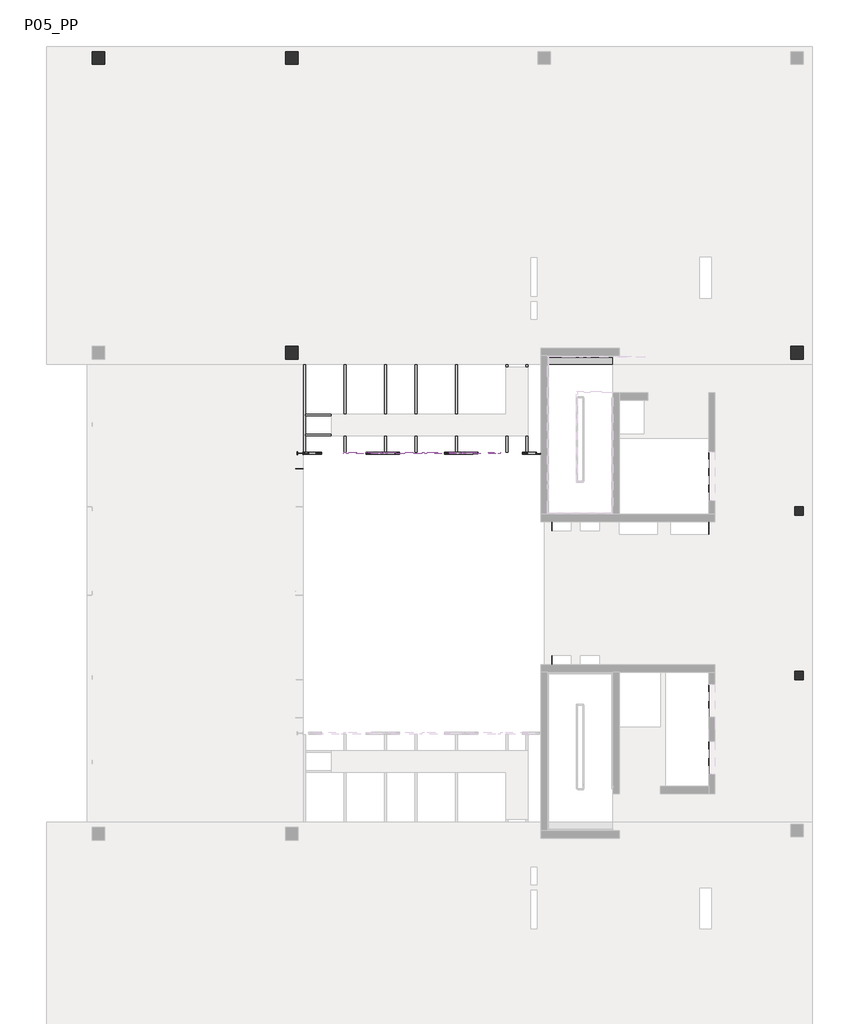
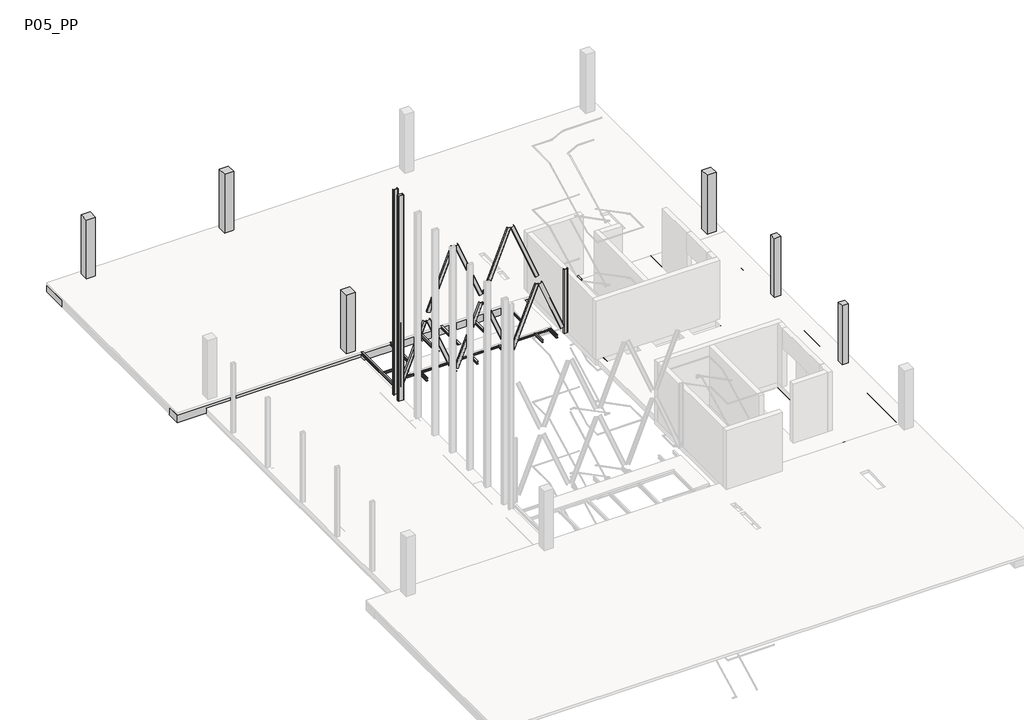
# One storey, part 3 of 7: 45 beams, 10 columns.
"""IFC4 building model written with IfcOpenShell, lengths in millimetres."""

from ifc_helpers import new_model, si_unit, frame, origin, place, context, project, spatial, polyline, outline, extrude, faceted_brep, transform, mapped, element, save
from components import ub_universal_beams_ipe_160x82_a4b44378, ub_universal_beams_ipe_160x82_3ea767f5, upn120x55_8ca40f5d, upn120x55_f8c29ef0, upn120x55_6f2391d9, upn120x55_f3862d68, upn120x55_dbb17e30, upn200x75_22e62ea1, upn200x75_5ddb06b6, upn200x75_15f8b11e, upn200x75_df23aae5, upn200x75_922ad74a, upn200x75_7b6a578c, rhs_rectangular_hollow_section_column_300x150x5_0rhs_ee9d9ef0, ub_universal_beam_column_ipe_240x120_65ac1af2, upn_200x75_111d3a53

model = new_model("IFC4")

# Units and contexts
model_context = context("Model", 3, world=origin())
ifc_project = project(units=[si_unit("LENGTHUNIT", "METRE", prefix="MILLI")], contexts=[model_context])

# Site, building, storey
site = spatial("IfcSite", under=ifc_project)
building = spatial("IfcBuilding", under=site)
storey = spatial("IfcBuildingStorey", under=building, Name="P05_PP", Elevation=26160.0)

# Beams
placement = place(None, origin())
element("IfcBeam", 1, ObjectType="M_Concrete-Rectangular Beam : 1500 x 550mm", at=placement, inside=storey, context=model_context, shape_type="Brep", body=[
    faceted_brep([(-13390.3216429, 13539.4134441, 26160.0), (-10790.2146087, 13539.4134441, 26160.0), (-10790.2146087, 13864.8960677, 26160.0), (-13390.3216429, 13864.8960677, 26160.0), (-2913.6343046, 15039.4134441, 25610.0), (-4553.6343046, 15039.4134441, 25610.0), (-5816.2708415, 15039.4134441, 25610.0), (-6216.2708415, 15039.4134441, 25610.0), (-7482.9375051, 15039.4134441, 25610.0), (-7882.9375051, 15039.4134441, 25610.0), (-9149.6041702, 15039.4134441, 25610.0), (-9549.6041702, 15039.4134441, 25610.0), (-10816.2708336, 15039.4134441, 25610.0), (-11216.2708336, 15039.4134441, 25610.0), (-12482.9374977, 15039.4134441, 25610.0), (-12882.9374977, 15039.4134441, 25610.0), (-14149.604161, 15039.4134441, 25610.0), (-14549.604161, 15039.4134441, 25610.0), (-15816.2708252, 15039.4134441, 25610.0), (-16216.2708252, 15039.4134441, 25610.0), (-17482.9374898, 15039.4134441, 25610.0), (-17882.9374898, 15039.4134441, 25610.0), (-19149.6041539, 15039.4134441, 25610.0), (-19549.6041539, 15039.4134441, 25610.0), (-20816.2708168, 15039.4134441, 25610.0), (-21216.2708168, 15039.4134441, 25610.0), (-22482.9374805, 15039.4134441, 25610.0), (-22882.9374805, 15039.4134441, 25610.0), (-24149.6041453, 15039.4134441, 25610.0), (-24149.6041453, 15039.4134441, 26010.0), (-22882.9374805, 15039.4134441, 26010.0), (-22482.9374805, 15039.4134441, 26010.0), (-21216.2708168, 15039.4134441, 26010.0), (-20816.2708168, 15039.4134441, 26010.0), (-19549.6041539, 15039.4134441, 26010.0), (-19149.6041539, 15039.4134441, 26010.0), (-17882.9374898, 15039.4134441, 26010.0), (-17482.9374898, 15039.4134441, 26010.0), (-16216.2708252, 15039.4134441, 26010.0), (-15816.2708252, 15039.4134441, 26010.0), (-14549.604161, 15039.4134441, 26010.0), (-14149.604161, 15039.4134441, 26010.0), (-12882.9374977, 15039.4134441, 26010.0), (-12482.9374977, 15039.4134441, 26010.0), (-11216.2708336, 15039.4134441, 26010.0), (-10816.2708336, 15039.4134441, 26010.0), (-9549.6041702, 15039.4134441, 26010.0), (-9149.6041702, 15039.4134441, 26010.0), (-7882.9375051, 15039.4134441, 26010.0), (-7482.9375051, 15039.4134441, 26010.0), (-6216.2708415, 15039.4134441, 26010.0), (-5816.2708415, 15039.4134441, 26010.0), (-4553.6343046, 15039.4134441, 26010.0), (-2913.6343046, 15039.4134441, 26010.0), (-2913.6343046, 13539.4134441, 25610.0), (-13390.3216429, 13539.4134441, 25610.0), (-13390.3216429, 13864.8960687, 25610.0), (-10540.3248355, 13864.8960687, 25610.0), (-10540.3248355, 14164.8960687, 25610.0), (-13640.3216429, 14164.8960687, 25610.0), (-13640.3216429, 13539.4134441, 25610.0), (-23041.1819308, 13539.4134441, 25610.0), (-23041.1819308, 14339.4137942, 25610.0), (-24149.6041453, 14339.4137942, 25610.0), (-3266.6679272, 13739.3936244, 25610.0), (-3266.6679265, 14239.3936244, 25610.0), (-3766.6679265, 14239.3936251, 25610.0), (-3766.6679272, 13739.3936251, 25610.0), (-13640.3216429, 13539.4134441, 25859.9777344), (-13390.3216429, 13539.4134441, 25859.9777344), (-2913.6343046, 13539.4134441, 25860.0), (-2913.6343046, 13539.4134441, 26010.0), (-10790.2146087, 13539.4134441, 26010.0), (-13390.3216429, 13539.4134441, 26010.0), (-23041.1830703, 13539.4134441, 26010.0), (-3266.6679272, 13739.3936244, 25860.0), (-3266.6679265, 14239.3936244, 25860.0), (-3766.6679272, 13739.3936251, 25860.0), (-3766.6679265, 14239.3936251, 25860.0), (-10540.3248355, 14164.8960687, 25859.9777344), (-13640.3216429, 14164.8960687, 25859.9777344), (-10540.3248355, 13864.8960687, 25859.9777344), (-13390.3216429, 13864.8960687, 25859.9777344), (-13640.3216429, 13864.8960687, 25859.9777344), (-23041.1819308, 14339.4137942, 26010.0), (-24149.6041453, 14339.4137942, 26010.0), (-10790.2146087, 13864.8960677, 26010.0), (-13390.3216429, 13864.8960677, 26010.0)], [[[0, 1, 2, 3]], [[4, 5, 6, 7, 8, 9, 10, 11, 12, 13, 14, 15, 16, 17, 18, 19, 20, 21, 22, 23, 24, 25, 26, 27, 28, 29, 30, 31, 32, 33, 34, 35, 36, 37, 38, 39, 40, 41, 42, 43, 44, 45, 46, 47, 48, 49, 50, 51, 52, 53]], [[4, 54, 55, 56, 57, 58, 59, 60, 61, 62, 63, 28, 27, 26, 25, 24, 23, 22, 21, 20, 19, 18, 17, 16, 15, 14, 13, 12, 11, 10, 9, 8, 7, 6, 5], [64, 65, 66, 67]], [[60, 68, 69, 55, 54, 70, 71, 72, 1, 0, 73, 74, 61]], [[54, 4, 53, 71, 70]], [[75, 76, 65, 64]], [[77, 75, 64, 67]], [[78, 77, 67, 66]], [[76, 78, 66, 65]], [[76, 75, 77, 78]], [[79, 80, 59, 58]], [[81, 57, 56, 82]], [[80, 79, 81, 82, 69, 68, 83]], [[81, 79, 58, 57]], [[59, 80, 83, 68, 60]], [[69, 82, 56, 55]], [[62, 61, 74, 84]], [[28, 63, 85, 29]], [[63, 62, 84, 85]], [[86, 72, 71, 53, 52, 51, 50, 49, 48, 47, 46, 45, 44, 43, 42, 41, 40, 39, 38, 37, 36, 35, 34, 33, 32, 31, 30, 29, 85, 84, 74, 73, 87]], [[86, 87, 3, 2]], [[87, 73, 0, 3]], [[72, 86, 2, 1]]]),
])
element("IfcBeam", 2, ObjectType="M_Concrete-Rectangular Beam : 1500 x 550mm", at=placement, inside=storey, context=model_context, shape_type="Brep", body=[
    faceted_brep([(-4553.6343046, 26089.4144807, 25610.0), (-33190.2931093, 26089.4144807, 25610.0), (-33190.2931093, 26089.4144807, 26010.0), (-4553.6343046, 26089.4144807, 26010.0), (-33190.2931093, 24589.4144807, 25610.0), (-4553.6343046, 24589.4144807, 25610.0), (-5816.2708415, 24589.4144807, 25610.0), (-6216.2708415, 24589.4144807, 25610.0), (-7482.9375051, 24589.4144807, 25610.0), (-7882.9375051, 24589.4144807, 25610.0), (-9149.6041702, 24589.4144807, 25610.0), (-9549.6041702, 24589.4144807, 25610.0), (-10816.2708336, 24589.4144807, 25610.0), (-11216.2708336, 24589.4144807, 25610.0), (-12482.9374977, 24589.4144807, 25610.0), (-12882.9374977, 24589.4144807, 25610.0), (-14149.604161, 24589.4144807, 25610.0), (-14549.604161, 24589.4144807, 25610.0), (-15816.2708252, 24589.4144807, 25610.0), (-16216.2708252, 24589.4144807, 25610.0), (-17482.9374898, 24589.4144807, 25610.0), (-17882.9374898, 24589.4144807, 25610.0), (-19149.6041539, 24589.4144807, 25610.0), (-19549.6041539, 24589.4144807, 25610.0), (-20816.2708168, 24589.4144807, 25610.0), (-21216.2708168, 24589.4144807, 25610.0), (-22482.9374805, 24589.4144807, 25610.0), (-22882.9374805, 24589.4144807, 25610.0), (-24149.6041453, 24589.4144807, 25610.0), (-24549.6041453, 24589.4144807, 25610.0), (-25816.2708089, 24589.4144807, 25610.0), (-26216.2708089, 24589.4144807, 25610.0), (-27482.9374731, 24589.4144807, 25610.0), (-27882.9374731, 24589.4144807, 25610.0), (-29149.6041367, 24589.4144807, 25610.0), (-29549.6041367, 24589.4144807, 25610.0), (-30816.2708024, 24589.4144807, 25610.0), (-31216.2708024, 24589.4144807, 25610.0), (-32490.2931093, 24589.4144807, 25610.0), (-13266.2186647, 25389.5104252, 25610.0), (-13266.218663, 25889.5104252, 25610.0), (-13766.218663, 25889.5104269, 25610.0), (-13766.2186647, 25389.5104269, 25610.0), (-23241.21739, 25389.5479146, 25610.0), (-23241.2173889, 25889.5479146, 25610.0), (-23741.2173889, 25889.5479157, 25610.0), (-23741.21739, 25389.5479157, 25610.0), (-30891.2595076, 25389.5793313, 25610.0), (-30891.2595074, 25889.5793313, 25610.0), (-31391.2595074, 25889.5793316, 25610.0), (-31391.2595076, 25389.5793316, 25610.0), (-4553.6343046, 24589.4144807, 26010.0), (-5816.2708415, 24589.4144807, 26010.0), (-6216.2708415, 24589.4144807, 26010.0), (-7482.9375051, 24589.4144807, 26010.0), (-7882.9375051, 24589.4144807, 26010.0), (-9149.6041702, 24589.4144807, 26010.0), (-9549.6041702, 24589.4144807, 26010.0), (-10816.2708336, 24589.4144807, 26010.0), (-11216.2708336, 24589.4144807, 26010.0), (-12482.9374977, 24589.4144807, 26010.0), (-12882.9374977, 24589.4144807, 26010.0), (-14149.604161, 24589.4144807, 26010.0), (-14549.604161, 24589.4144807, 26010.0), (-15816.2708252, 24589.4144807, 26010.0), (-16216.2708252, 24589.4144807, 26010.0), (-17482.9374898, 24589.4144807, 26010.0), (-17882.9374898, 24589.4144807, 26010.0), (-19149.6041539, 24589.4144807, 26010.0), (-19549.6041539, 24589.4144807, 26010.0), (-20816.2708168, 24589.4144807, 26010.0), (-21216.2708168, 24589.4144807, 26010.0), (-22482.9374805, 24589.4144807, 26010.0), (-22882.9374805, 24589.4144807, 26010.0), (-24149.6041453, 24589.4144807, 26010.0), (-24549.6041453, 24589.4144807, 26010.0), (-25816.2708089, 24589.4144807, 26010.0), (-26216.2708089, 24589.4144807, 26010.0), (-27482.9374731, 24589.4144807, 26010.0), (-27882.9374731, 24589.4144807, 26010.0), (-29149.6041367, 24589.4144807, 26010.0), (-29549.6041367, 24589.4144807, 26010.0), (-30816.2708024, 24589.4144807, 26010.0), (-31216.2708024, 24589.4144807, 26010.0), (-32490.2931093, 24589.4144807, 26010.0), (-33190.2931093, 24589.4144807, 26010.0), (-13266.2186647, 25389.5104252, 25860.0), (-13266.218663, 25889.5104252, 25860.0), (-13766.2186647, 25389.5104269, 25860.0), (-13766.218663, 25889.5104269, 25860.0), (-23241.21739, 25389.5479146, 25860.0), (-23241.2173889, 25889.5479146, 25860.0), (-23741.21739, 25389.5479157, 25860.0), (-23741.2173889, 25889.5479157, 25860.0), (-30891.2595076, 25389.5793313, 25860.0), (-30891.2595074, 25889.5793313, 25860.0), (-31391.2595076, 25389.5793316, 25860.0), (-31391.2595074, 25889.5793316, 25860.0)], [[[0, 1, 2, 3]], [[4, 1, 0, 5, 6, 7, 8, 9, 10, 11, 12, 13, 14, 15, 16, 17, 18, 19, 20, 21, 22, 23, 24, 25, 26, 27, 28, 29, 30, 31, 32, 33, 34, 35, 36, 37, 38], [39, 40, 41, 42], [43, 44, 45, 46], [47, 48, 49, 50]], [[4, 38, 37, 36, 35, 34, 33, 32, 31, 30, 29, 28, 27, 26, 25, 24, 23, 22, 21, 20, 19, 18, 17, 16, 15, 14, 13, 12, 11, 10, 9, 8, 7, 6, 5, 51, 52, 53, 54, 55, 56, 57, 58, 59, 60, 61, 62, 63, 64, 65, 66, 67, 68, 69, 70, 71, 72, 73, 74, 75, 76, 77, 78, 79, 80, 81, 82, 83, 84, 85]], [[1, 4, 85, 2]], [[5, 0, 3, 51]], [[86, 87, 40, 39]], [[88, 86, 39, 42]], [[89, 88, 42, 41]], [[87, 89, 41, 40]], [[87, 86, 88, 89]], [[90, 91, 44, 43]], [[92, 90, 43, 46]], [[93, 92, 46, 45]], [[91, 93, 45, 44]], [[91, 90, 92, 93]], [[94, 95, 48, 47]], [[96, 94, 47, 50]], [[97, 96, 50, 49]], [[95, 97, 49, 48]], [[95, 94, 96, 97]], [[3, 2, 85, 84, 83, 82, 81, 80, 79, 78, 77, 76, 75, 74, 73, 72, 71, 70, 69, 68, 67, 66, 65, 64, 63, 62, 61, 60, 59, 58, 57, 56, 55, 54, 53, 52, 51]]]),
])
element("IfcBeam", 3, ObjectType="M_Concrete-Rectangular Beam : 300 x 300mm", at=placement, inside=storey, context=model_context, shape_type="SweptSolid", body=[
    extrude(outline(polyline([(-13515.3216429, 7614.8960673), (-13215.3216429, 7614.8960673), (-13215.3216429, 1364.8960692), (-13515.3216429, 1364.8960692), (-13515.3216429, 7614.8960673)])), frame((0.0, 0.0, 25860.0), z_axis=(0.0, 0.0, 1.0), x_axis=(1.0, 0.0, 0.0)), (0.0, 0.0, 1.0), 300.0),
])
element("IfcBeam", 4, ObjectType="M_Concrete-Rectangular Beam : 300 x 300mm", at=placement, inside=storey, context=model_context, shape_type="Brep", body=[
    faceted_brep([(-6715.3241677, 13539.4134441, 26160.0), (-7015.3241677, 13539.4134441, 26160.0), (-7015.3241677, -4560.5861501, 26160.0), (-6715.3241677, -4560.5861501, 26160.0), (-7015.3241677, 13539.4134441, 26010.0), (-7015.3241677, 13539.4134441, 25860.0), (-7015.3241677, -4560.5861501, 25860.0), (-7015.3241677, -4560.5861501, 26010.0), (-6715.3241677, 13539.4134441, 25860.0), (-6715.3241677, -4560.5861501, 25860.0), (-6715.3241677, -4560.5861501, 26010.0), (-6715.3241677, 13539.4134441, 26010.0)], [[[0, 1, 2, 3]], [[2, 1, 4, 5, 6, 7]], [[5, 8, 9, 6]], [[0, 3, 10, 9, 8, 11]], [[1, 0, 11, 8, 5, 4]], [[3, 2, 7, 6, 9, 10]]]),
])
element("IfcBeam", 5, ObjectType="M_Concrete-Rectangular Beam : 400 x 550mm", at=placement, inside=storey, context=model_context, shape_type="SweptSolid", body=[
    extrude(outline(polyline([(-31216.2708024, 24589.4144807), (-30816.2708024, 24589.4144807), (-30816.2708024, 14339.4137942), (-31216.2708024, 14339.4137942), (-31216.2708024, 24589.4144807)])), frame((0.0, 0.0, 25610.0), z_axis=(0.0, 0.0, 1.0), x_axis=(1.0, 0.0, 0.0)), (0.0, 0.0, 1.0), 400.0),
])
element("IfcBeam", 6, ObjectType="M_Concrete-Rectangular Beam : 400 x 550mm", at=placement, inside=storey, context=model_context, shape_type="SweptSolid", body=[
    extrude(outline(polyline([(-29549.6041367, 24589.4144807), (-29149.6041367, 24589.4144807), (-29149.6041367, 14339.4137942), (-29549.6041367, 14339.4137942), (-29549.6041367, 24589.4144807)])), frame((0.0, 0.0, 25610.0), z_axis=(0.0, 0.0, 1.0), x_axis=(1.0, 0.0, 0.0)), (0.0, 0.0, 1.0), 400.0),
])
element("IfcBeam", 7, ObjectType="M_Concrete-Rectangular Beam : 400 x 550mm", at=placement, inside=storey, context=model_context, shape_type="SweptSolid", body=[
    extrude(outline(polyline([(-27882.9374731, 24589.4144807), (-27482.9374731, 24589.4144807), (-27482.9374731, 14339.4137942), (-27882.9374731, 14339.4137942), (-27882.9374731, 24589.4144807)])), frame((0.0, 0.0, 25610.0), z_axis=(0.0, 0.0, 1.0), x_axis=(1.0, 0.0, 0.0)), (0.0, 0.0, 1.0), 400.0),
])
element("IfcBeam", 8, ObjectType="M_Concrete-Rectangular Beam : 400 x 550mm", at=placement, inside=storey, context=model_context, shape_type="SweptSolid", body=[
    extrude(outline(polyline([(-26216.2708089, 24589.4144807), (-25816.2708089, 24589.4144807), (-25816.2708089, 14339.4137942), (-26216.2708089, 14339.4137942), (-26216.2708089, 24589.4144807)])), frame((0.0, 0.0, 25610.0), z_axis=(0.0, 0.0, 1.0), x_axis=(1.0, 0.0, 0.0)), (0.0, 0.0, 1.0), 400.0),
])
element("IfcBeam", 9, ObjectType="M_Concrete-Rectangular Beam : 400 x 550mm", at=placement, inside=storey, context=model_context, shape_type="Brep", body=[
    faceted_brep([(-24549.6041453, 24589.4144807, 25610.0), (-24549.6041453, 14339.4137942, 25610.0), (-24549.6041453, 14339.4137942, 26010.0), (-24549.6041453, 24589.4144807, 26010.0), (-24149.6041453, 24589.4144807, 25610.0), (-24149.6041453, 15039.4134441, 25610.0), (-24149.6041453, 14339.4137942, 25610.0), (-24149.6041453, 24589.4144807, 26010.0), (-24149.6041453, 15039.4134441, 26010.0), (-24149.6041453, 14339.4137942, 26010.0)], [[[0, 1, 2, 3]], [[0, 4, 5, 6, 1]], [[6, 5, 4, 7, 8, 9]], [[4, 0, 3, 7]], [[1, 6, 9, 2]], [[3, 2, 9, 8, 7]]]),
])
element("IfcBeam", 10, ObjectType="M_Concrete-Rectangular Beam : 400 x 550mm", at=placement, inside=storey, context=model_context, shape_type="SweptSolid", body=[
    extrude(outline(polyline([(-22482.9374805, 15039.4134441), (-22882.9374805, 15039.4134441), (-22882.9374805, 24589.4144807), (-22482.9374805, 24589.4144807), (-22482.9374805, 15039.4134441)])), frame((0.0, 0.0, 25610.0), z_axis=(0.0, 0.0, 1.0), x_axis=(1.0, 0.0, 0.0)), (0.0, 0.0, 1.0), 400.0),
])
element("IfcBeam", 11, ObjectType="M_Concrete-Rectangular Beam : 400 x 550mm", at=placement, inside=storey, context=model_context, shape_type="SweptSolid", body=[
    extrude(outline(polyline([(-20816.2708168, 15039.4134441), (-21216.2708168, 15039.4134441), (-21216.2708168, 24589.4144807), (-20816.2708168, 24589.4144807), (-20816.2708168, 15039.4134441)])), frame((0.0, 0.0, 25610.0), z_axis=(0.0, 0.0, 1.0), x_axis=(1.0, 0.0, 0.0)), (0.0, 0.0, 1.0), 400.0),
])
element("IfcBeam", 12, ObjectType="M_Concrete-Rectangular Beam : 400 x 550mm", at=placement, inside=storey, context=model_context, shape_type="SweptSolid", body=[
    extrude(outline(polyline([(-19149.6041539, 15039.4134441), (-19549.6041539, 15039.4134441), (-19549.6041539, 24589.4144807), (-19149.6041539, 24589.4144807), (-19149.6041539, 15039.4134441)])), frame((0.0, 0.0, 25610.0), z_axis=(0.0, 0.0, 1.0), x_axis=(1.0, 0.0, 0.0)), (0.0, 0.0, 1.0), 400.0),
])
element("IfcBeam", 13, ObjectType="M_Concrete-Rectangular Beam : 400 x 550mm", at=placement, inside=storey, context=model_context, shape_type="SweptSolid", body=[
    extrude(outline(polyline([(-17482.9374898, 15039.4134441), (-17882.9374898, 15039.4134441), (-17882.9374898, 24589.4144807), (-17482.9374898, 24589.4144807), (-17482.9374898, 15039.4134441)])), frame((0.0, 0.0, 25610.0), z_axis=(0.0, 0.0, 1.0), x_axis=(1.0, 0.0, 0.0)), (0.0, 0.0, 1.0), 400.0),
])
element("IfcBeam", 14, ObjectType="M_Concrete-Rectangular Beam : 400 x 550mm", at=placement, inside=storey, context=model_context, shape_type="SweptSolid", body=[
    extrude(outline(polyline([(-15816.2708252, 15039.4134441), (-16216.2708252, 15039.4134441), (-16216.2708252, 24589.4144807), (-15816.2708252, 24589.4144807), (-15816.2708252, 15039.4134441)])), frame((0.0, 0.0, 25610.0), z_axis=(0.0, 0.0, 1.0), x_axis=(1.0, 0.0, 0.0)), (0.0, 0.0, 1.0), 400.0),
])
element("IfcBeam", 15, ObjectType="M_Concrete-Rectangular Beam : 800 x 600mm", at=placement, inside=storey, context=model_context, shape_type="Brep", body=[
    faceted_brep([(-23041.1834977, 13539.4137942, 25560.0), (-23041.1834977, 14339.4137942, 25560.0), (-23041.1834977, 14339.4137942, 25610.0), (-23041.1834977, 14339.4137942, 26010.0), (-23041.1834977, 13539.4137942, 26010.0), (-23741.1819308, 14339.4137942, 25560.0), (-33190.2931093, 14339.4137942, 25560.0), (-33190.2931093, 14339.4137942, 25610.0), (-33190.2931093, 14339.4137942, 26010.0), (-32490.2931093, 14339.4137942, 26010.0), (-31216.2708024, 14339.4137942, 26010.0), (-30816.2708024, 14339.4137942, 26010.0), (-29549.6041367, 14339.4137942, 26010.0), (-29149.6041367, 14339.4137942, 26010.0), (-27882.9374731, 14339.4137942, 26010.0), (-27482.9374731, 14339.4137942, 26010.0), (-26216.2708089, 14339.4137942, 26010.0), (-25816.2708089, 14339.4137942, 26010.0), (-24549.6041453, 14339.4137942, 26010.0), (-24149.6041453, 14339.4137942, 26010.0), (-23741.1819308, 13539.4137942, 25560.0), (-33190.2931093, 13539.4137942, 25560.0), (-30891.2593061, 13739.3934096, 25560.0), (-30891.2593058, 14239.3934096, 25560.0), (-31391.2593058, 14239.3934099, 25560.0), (-31391.2593061, 13739.3934099, 25560.0), (-23241.2178864, 13739.3934141, 25560.0), (-23241.2178866, 14239.3934141, 25560.0), (-23741.2178866, 14239.3934138, 25560.0), (-23741.2178864, 13739.3934138, 25560.0), (-33190.2931093, 13539.4137942, 26010.0), (-30891.2593061, 13739.3934096, 25860.0), (-30891.2593058, 14239.3934096, 25860.0), (-31391.2593058, 14239.3934099, 25860.0), (-31391.2593061, 13739.3934099, 25860.0), (-23241.2178864, 13739.3934141, 25860.0), (-23241.2178866, 14239.3934141, 25860.0), (-23741.2178864, 13739.3934138, 25860.0), (-23741.2178866, 14239.3934138, 25860.0)], [[[0, 1, 2, 3, 4]], [[1, 5, 6, 7, 8, 9, 10, 11, 12, 13, 14, 15, 16, 17, 18, 19, 3, 2]], [[1, 0, 20, 21, 6, 5], [22, 23, 24, 25], [26, 27, 28, 29]], [[21, 20, 0, 4, 30]], [[6, 21, 30, 8, 7]], [[31, 32, 23, 22]], [[33, 34, 25, 24]], [[32, 33, 24, 23]], [[32, 31, 34, 33]], [[34, 31, 22, 25]], [[35, 36, 27, 26]], [[37, 35, 26, 29]], [[38, 37, 29, 28]], [[36, 38, 28, 27]], [[36, 35, 37, 38]], [[4, 3, 19, 18, 17, 16, 15, 14, 13, 12, 11, 10, 9, 8, 30]]]),
])
element("IfcBeam", 16, ObjectType="M_Concrete-Rectangular Beam : 850 x 300mm", at=placement, inside=storey, context=model_context, shape_type="Brep", body=[
    faceted_brep([(-2913.6343046, 13539.4134441, 26160.0), (-3763.6343046, 13539.4134441, 26160.0), (-3763.6343046, -4560.5861501, 26160.0), (-2913.6343046, -4560.5861501, 26160.0), (-3763.6343046, 13539.4134441, 26010.0), (-3763.6343046, 13539.4134441, 25860.0), (-3763.6343046, -4560.5861501, 25860.0), (-3763.6343046, -4560.5861501, 26010.0), (-2913.6343046, 13539.4134441, 25860.0), (-2913.6343046, -4560.5861501, 25860.0), (-2913.6343046, -4560.5861501, 26010.0), (-2913.6343046, 13539.4134441, 26010.0)], [[[0, 1, 2, 3]], [[2, 1, 4, 5, 6, 7]], [[5, 8, 9, 6]], [[0, 3, 10, 9, 8, 11]], [[1, 0, 11, 8, 5, 4]], [[3, 2, 7, 6, 9, 10]]]),
])
ub_universal_beams_ipe_160x82_shape = ub_universal_beams_ipe_160x82_a4b44378(model_context)
element("IfcBeam", 17, ObjectType="UB-Universal Beams : IPE 160x82", at=placement, inside=storey, context=model_context, shape_type="MappedRepresentation", body=[
    mapped(ub_universal_beams_ipe_160x82_shape, transform((-14190.4459331, 12171.9464504, 26080.0), x_axis=(0.0, -1.0, 0.0), y_axis=(1.0, 0.0, 0.0), z_axis=(0.0, 0.0, 1.0))),
])
element("IfcBeam", 18, ObjectType="UB-Universal Beams : IPE 160x82", at=placement, inside=storey, context=model_context, shape_type="MappedRepresentation", body=[
    mapped(ub_universal_beams_ipe_160x82_shape, transform((-14990.4459326, 12171.9464378, 26080.0), x_axis=(0.0, -1.0, 0.0), y_axis=(1.0, 0.0, 0.0), z_axis=(0.0, 0.0, 1.0))),
])
element("IfcBeam", 19, ObjectType="UB-Universal Beams : IPE 160x82", at=placement, inside=storey, context=model_context, shape_type="MappedRepresentation", body=[
    mapped(ub_universal_beams_ipe_160x82_shape, transform((-16990.4459316, 12171.9464061, 26080.0), x_axis=(0.0, -1.0, 0.0), y_axis=(1.0, 0.0, 0.0), z_axis=(0.0, 0.0, 1.0))),
])
element("IfcBeam", 20, ObjectType="UB-Universal Beams : IPE 160x82", at=placement, inside=storey, context=model_context, shape_type="MappedRepresentation", body=[
    mapped(ub_universal_beams_ipe_160x82_shape, transform((-18590.4459308, 12171.9463807, 26080.0), x_axis=(0.0, -1.0, 0.0), y_axis=(1.0, 0.0, 0.0), z_axis=(0.0, 0.0, 1.0))),
])
element("IfcBeam", 21, ObjectType="UB-Universal Beams : IPE 160x82", at=placement, inside=storey, context=model_context, shape_type="MappedRepresentation", body=[
    mapped(ub_universal_beams_ipe_160x82_shape, transform((-19790.4459314, 12171.9463617, 26080.0), x_axis=(0.0, -1.0, 0.0), y_axis=(1.0, 0.0, 0.0), z_axis=(0.0, 0.0, 1.0))),
])
element("IfcBeam", 22, ObjectType="UB-Universal Beams : IPE 160x82", at=placement, inside=storey, context=model_context, shape_type="MappedRepresentation", body=[
    mapped(ub_universal_beams_ipe_160x82_shape, transform((-21390.4459306, 12171.9463363, 26080.0), x_axis=(0.0, -1.0, 0.0), y_axis=(1.0, 0.0, 0.0), z_axis=(0.0, 0.0, 1.0))),
])
ub_universal_beams_ipe_160x82_2_shape = ub_universal_beams_ipe_160x82_3ea767f5(model_context)
element("IfcBeam", 23, ObjectType="UB-Universal Beams : IPE 160x82", at=placement, inside=storey, context=model_context, shape_type="MappedRepresentation", body=[
    mapped(ub_universal_beams_ipe_160x82_2_shape, transform((-22991.1860553, 12171.9463109, 26080.0), x_axis=(0.0, -1.0, 0.0), y_axis=(1.0, 0.0, 0.0), z_axis=(0.0, 0.0, 1.0))),
])
upn120x55_shape = upn120x55_8ca40f5d(model_context)
element("IfcBeam", 24, ObjectType="M_MC Shapes : UPN120x55", at=placement, inside=storey, context=model_context, shape_type="MappedRepresentation", body=[
    mapped(upn120x55_shape, transform((-22165.4459321, 11551.9793105, 26100.0), x_axis=(0.9999999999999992, 4.0441290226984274e-08, 0.0), y_axis=(-4.0441290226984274e-08, 0.9999999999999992, 0.0), z_axis=(0.0, 0.0, 1.0))),
])
element("IfcBeam", 25, ObjectType="M_MC Shapes : UPN120x55", at=placement, inside=storey, context=model_context, shape_type="MappedRepresentation", body=[
    mapped(upn120x55_shape, transform((-22165.4459321, 10751.9793096, 26100.0), x_axis=(0.9999999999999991, 4.319865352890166e-08, 0.0), y_axis=(-4.319865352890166e-08, 0.9999999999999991, 0.0), z_axis=(0.0, 0.0, 1.0))),
])
upn120x55_2_shape = upn120x55_f8c29ef0(model_context)
element("IfcBeam", 26, ObjectType="M_MC Shapes : UPN120x55", at=placement, inside=storey, context=model_context, shape_type="MappedRepresentation", body=[
    mapped(upn120x55_2_shape, transform((-20590.445931, 10751.9793776, 26100.0), x_axis=(0.9999999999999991, 4.319865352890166e-08, 0.0), y_axis=(-4.319865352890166e-08, 0.9999999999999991, 0.0), z_axis=(0.0, 0.0, 1.0))),
])
element("IfcBeam", 27, ObjectType="M_MC Shapes : UPN120x55", at=placement, inside=storey, context=model_context, shape_type="MappedRepresentation", body=[
    mapped(upn120x55_2_shape, transform((-17790.4459312, 10751.9794985, 26100.0), x_axis=(0.9999999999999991, 4.319865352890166e-08, 0.0), y_axis=(-4.319865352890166e-08, 0.9999999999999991, 0.0), z_axis=(0.0, 0.0, 1.0))),
])
element("IfcBeam", 28, ObjectType="M_MC Shapes : UPN120x55", at=placement, inside=storey, context=model_context, shape_type="MappedRepresentation", body=[
    mapped(upn120x55_2_shape, transform((-20590.445931, 11551.9793742, 26100.0), x_axis=(0.9999999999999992, 4.0441290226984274e-08, 0.0), y_axis=(-4.0441290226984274e-08, 0.9999999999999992, 0.0), z_axis=(0.0, 0.0, 1.0))),
])
element("IfcBeam", 29, ObjectType="M_MC Shapes : UPN120x55", at=placement, inside=storey, context=model_context, shape_type="MappedRepresentation", body=[
    mapped(upn120x55_2_shape, transform((-17790.4459312, 11551.9794874, 26100.0), x_axis=(0.9999999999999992, 4.0441290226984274e-08, 0.0), y_axis=(-4.0441290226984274e-08, 0.9999999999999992, 0.0), z_axis=(0.0, 0.0, 1.0))),
])
upn120x55_3_shape = upn120x55_6f2391d9(model_context)
element("IfcBeam", 30, ObjectType="M_MC Shapes : UPN120x55", at=placement, inside=storey, context=model_context, shape_type="MappedRepresentation", body=[
    mapped(upn120x55_3_shape, transform((-19190.4459311, 10751.9794381, 26100.0), x_axis=(0.9999999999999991, 4.319865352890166e-08, 0.0), y_axis=(-4.319865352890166e-08, 0.9999999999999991, 0.0), z_axis=(0.0, 0.0, 1.0))),
])
element("IfcBeam", 31, ObjectType="M_MC Shapes : UPN120x55", at=placement, inside=storey, context=model_context, shape_type="MappedRepresentation", body=[
    mapped(upn120x55_3_shape, transform((-19190.4459311, 11551.9794308, 26100.0), x_axis=(0.9999999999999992, 4.0441290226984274e-08, 0.0), y_axis=(-4.0441290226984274e-08, 0.9999999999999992, 0.0), z_axis=(0.0, 0.0, 1.0))),
])
upn120x55_4_shape = upn120x55_f3862d68(model_context)
element("IfcBeam", 32, ObjectType="M_MC Shapes : UPN120x55", at=placement, inside=storey, context=model_context, shape_type="MappedRepresentation", body=[
    mapped(upn120x55_4_shape, transform((-15990.4459321, 10751.9795763, 26100.0), x_axis=(0.9999999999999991, 4.319865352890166e-08, 0.0), y_axis=(-4.319865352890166e-08, 0.9999999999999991, 0.0), z_axis=(0.0, 0.0, 1.0))),
])
element("IfcBeam", 33, ObjectType="M_MC Shapes : UPN120x55", at=placement, inside=storey, context=model_context, shape_type="MappedRepresentation", body=[
    mapped(upn120x55_4_shape, transform((-15990.4459321, 11551.9795602, 26100.0), x_axis=(0.9999999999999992, 4.0441290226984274e-08, 0.0), y_axis=(-4.0441290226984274e-08, 0.9999999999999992, 0.0), z_axis=(0.0, 0.0, 1.0))),
])
upn120x55_5_shape = upn120x55_dbb17e30(model_context)
element("IfcBeam", 34, ObjectType="M_MC Shapes : UPN120x55", at=placement, inside=storey, context=model_context, shape_type="MappedRepresentation", body=[
    mapped(upn120x55_5_shape, transform((-14590.4459328, 11551.9796168, 26100.0), x_axis=(0.9999999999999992, 4.0441290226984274e-08, 0.0), y_axis=(-4.0441290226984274e-08, 0.9999999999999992, 0.0), z_axis=(0.0, 0.0, 1.0))),
])
element("IfcBeam", 35, ObjectType="M_MC Shapes : UPN120x55", at=placement, inside=storey, context=model_context, shape_type="MappedRepresentation", body=[
    mapped(upn120x55_5_shape, transform((-14590.4459328, 10751.9796368, 26100.0), x_axis=(0.9999999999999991, 4.319865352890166e-08, 0.0), y_axis=(-4.319865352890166e-08, 0.9999999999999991, 0.0), z_axis=(0.0, 0.0, 1.0))),
])
upn200x75_shape = upn200x75_22e62ea1(model_context)
element("IfcBeam", 36, ObjectType="M_MC Shapes : UPN200x75", at=placement, inside=storey, context=model_context, shape_type="MappedRepresentation", body=[
    mapped(upn200x75_shape, transform((-14469.7052054, 10001.2791702, 27886.1409985), x_axis=(0.3712989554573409, 1.1791241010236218e-08, -0.9285133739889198), y_axis=(-3.175673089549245e-08, 0.9999999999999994, 0.0), z_axis=(0.9285133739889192, 2.948654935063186e-08, 0.371298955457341))),
])
upn200x75_2_shape = upn200x75_5ddb06b6(model_context)
element("IfcBeam", 37, ObjectType="M_MC Shapes : UPN200x75", at=placement, inside=storey, context=model_context, shape_type="MappedRepresentation", body=[
    mapped(upn200x75_2_shape, transform((-20664.5997568, 10001.2791698, 27897.0114841), x_axis=(0.37512312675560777, 1.1576565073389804e-08, -0.9269749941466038), y_axis=(-3.0860707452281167e-08, 0.9999999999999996, 0.0), z_axis=(0.9269749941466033, 2.8607104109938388e-08, 0.37512312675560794))),
])
element("IfcBeam", 38, ObjectType="M_MC Shapes : UPN200x75", at=placement, inside=storey, context=model_context, shape_type="MappedRepresentation", body=[
    mapped(upn200x75_2_shape, transform((-19116.0351339, 10001.2791698, 31722.9889375), x_axis=(-0.3751231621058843, 1.157656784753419e-08, 0.926974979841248), y_axis=(3.086070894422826e-08, 0.9999999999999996, 0.0), z_axis=(-0.926974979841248, 2.86071045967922e-08, -0.37512316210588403))),
])
upn200x75_3_shape = upn200x75_15f8b11e(model_context)
element("IfcBeam", 39, ObjectType="M_MC Shapes : UPN200x75", at=placement, inside=storey, context=model_context, shape_type="MappedRepresentation", body=[
    mapped(upn200x75_3_shape, transform((-22208.7675596, 10001.2791702, 27889.3990465), x_axis=(-0.3712989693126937, 1.179124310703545e-08, -0.9285133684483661), y_axis=(-3.175673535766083e-08, -0.9999999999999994, 0.0), z_axis=(-0.9285133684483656, 2.9486553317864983e-08, 0.3712989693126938))),
])
upn200x75_4_shape = upn200x75_df23aae5(model_context)
element("IfcBeam", 40, ObjectType="M_MC Shapes : UPN200x75", at=placement, inside=storey, context=model_context, shape_type="MappedRepresentation", body=[
    mapped(upn200x75_4_shape, transform((-19116.0351339, 10001.2791698, 27897.0113111), x_axis=(-0.37512316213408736, 1.1576567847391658e-08, -0.926974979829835), y_axis=(-3.086071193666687e-08, -0.9999999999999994, 0.0), z_axis=(-0.9269749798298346, 2.860710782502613e-08, 0.37512316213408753))),
])
element("IfcBeam", 41, ObjectType="M_MC Shapes : UPN200x75", at=placement, inside=storey, context=model_context, shape_type="MappedRepresentation", body=[
    mapped(upn200x75_4_shape, transform((-20664.5997567, 10001.2791698, 31722.9887644), x_axis=(0.37512312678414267, 1.1576565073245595e-08, 0.9269749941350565), y_axis=(3.086071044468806e-08, -0.9999999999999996, 0.0), z_axis=(0.926974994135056, 2.860710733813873e-08, -0.37512312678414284))),
])
upn200x75_5_shape = upn200x75_922ad74a(model_context)
element("IfcBeam", 42, ObjectType="M_MC Shapes : UPN200x75", at=placement, inside=storey, context=model_context, shape_type="MappedRepresentation", body=[
    mapped(upn200x75_5_shape, transform((-16015.3971257, 10001.2791698, 27895.9308444), x_axis=(-0.37501640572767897, 1.1573274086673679e-08, -0.9270181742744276), y_axis=(-3.086071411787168e-08, -0.9999999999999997, 0.0), z_axis=(-0.927018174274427, 2.8608442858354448e-08, 0.3750164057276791))),
])
upn200x75_6_shape = upn200x75_7b6a578c(model_context)
element("IfcBeam", 43, ObjectType="M_MC Shapes : UPN200x75", at=placement, inside=storey, context=model_context, shape_type="MappedRepresentation", body=[
    mapped(upn200x75_6_shape, transform((-16015.3971259, 10001.2791698, 31724.0694042), x_axis=(-0.37501640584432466, 1.1573274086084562e-08, 0.9270181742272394), y_axis=(3.086071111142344e-08, 0.9999999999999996, 0.0), z_axis=(-0.9270181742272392, 2.8608439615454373e-08, -0.3750164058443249))),
])
element("IfcBeam", 44, ObjectType="M_MC Shapes : UPN200x75", at=placement, inside=storey, context=model_context, shape_type="MappedRepresentation", body=[
    mapped(upn200x75_6_shape, transform((-17563.5191355, 10001.2791698, 27895.9307969), x_axis=(0.3750164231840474, 1.1573272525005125e-08, -0.927018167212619), y_axis=(-3.08607085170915e-08, 0.9999999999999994, 0.0), z_axis=(0.9270181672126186, 2.8608437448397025e-08, 0.37501642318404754))),
])
element("IfcBeam", 45, ObjectType="M_MC Shapes : UPN200x75", at=placement, inside=storey, context=model_context, shape_type="MappedRepresentation", body=[
    mapped(upn200x75_5_shape, transform((-17563.5191358, 10001.2791698, 31724.0694517), x_axis=(0.3750164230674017, 1.1573272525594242e-08, 0.927018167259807), y_axis=(3.086071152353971e-08, -0.9999999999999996, 0.0), z_axis=(0.9270181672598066, 2.8608440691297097e-08, -0.37501642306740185))),
])

# Columns
element("IfcColumn", 46, ObjectType="Concrete-Rectangular-Column : Pilar_Rectangular-Formigo-350x350", at=placement, inside=storey, context=model_context, shape_type="SweptSolid", body=[
    extrude(outline(polyline([(-3266.6337099, 1414.7524947), (-3266.6337068, 1064.7524947), (-3616.6337068, 1064.7524916), (-3616.6337099, 1414.7524916), (-3266.6337099, 1414.7524947)])), frame((0.0, 0.0, 26160.0), z_axis=(0.0, 0.0, 1.0), x_axis=(1.0, 0.0, 0.0)), (0.0, 0.0, 1.0), 3450.0),
])
element("IfcColumn", 47, ObjectType="Concrete-Rectangular-Column : Pilar_Rectangular-Formigo-350x350", at=placement, inside=storey, context=model_context, shape_type="SweptSolid", body=[
    extrude(outline(polyline([(-3266.6337284, 7914.7524902), (-3266.6337283, 7564.7524902), (-3616.6337283, 7564.75249), (-3616.6337284, 7914.75249), (-3266.6337284, 7914.7524902)])), frame((0.0, 0.0, 26160.0), z_axis=(0.0, 0.0, 1.0), x_axis=(1.0, 0.0, 0.0)), (0.0, 0.0, 1.0), 3450.0),
])
element("IfcColumn", 48, ObjectType="Concrete-Rectangular-Column : Pilar_Rectangular-Formigo-500x500", at=placement, inside=storey, context=model_context, shape_type="Brep", body=[
    faceted_brep([(-3266.3636764, 14239.5630042, 26160.0), (-3266.3636719, 13739.5630042, 26160.0), (-3766.3636719, 13739.5629997, 26160.0), (-3766.3636764, 14239.5629997, 26160.0), (-3266.3636764, 14239.5630042, 29610.0), (-3266.3636719, 13739.5630042, 29610.0), (-3266.3636719, 13739.5630042, 29360.0), (-3266.3636764, 14239.5630042, 29360.0), (-3766.3636719, 13739.5629997, 29610.0), (-3766.3636719, 13739.5629997, 29360.0), (-3766.3636764, 14239.5629997, 29610.0), (-3766.3636764, 14239.5629997, 29360.0)], [[[0, 1, 2, 3]], [[4, 5, 6, 1, 0, 7]], [[5, 8, 9, 2, 1, 6]], [[8, 10, 11, 3, 2, 9]], [[10, 4, 7, 0, 3, 11]], [[4, 10, 8, 5]]]),
])
element("IfcColumn", 49, ObjectType="Concrete-Rectangular-Column : Pilar_Rectangular-Formigo-500x500", at=placement, inside=storey, context=model_context, shape_type="Brep", body=[
    faceted_brep([(-23240.9136354, 14239.5627917, 26160.0), (-23240.9136369, 13739.5627917, 26160.0), (-23740.9136369, 13739.5627932, 26160.0), (-23740.9136354, 14239.5627932, 26160.0), (-23240.9136354, 14239.5627917, 29610.0), (-23240.9136369, 13739.5627917, 29610.0), (-23240.9136369, 13739.5627917, 29360.0), (-23240.9136354, 14239.5627917, 29360.0), (-23740.9136369, 13739.5627932, 29610.0), (-23740.9136369, 13739.5627932, 29360.0), (-23740.9136354, 14239.5627932, 29610.0), (-23740.9136354, 14239.5627932, 29360.0)], [[[0, 1, 2, 3]], [[4, 5, 6, 1, 0, 7]], [[5, 8, 9, 2, 1, 6]], [[8, 10, 11, 3, 2, 9]], [[10, 4, 7, 0, 3, 11]], [[4, 10, 8, 5]]]),
])
element("IfcColumn", 50, ObjectType="Concrete-Rectangular-Column : Pilar_Rectangular-Formigo-500x500", at=placement, inside=storey, context=model_context, shape_type="Brep", body=[
    faceted_brep([(-23240.9131369, 25889.5088666, 26160.0), (-23240.9131369, 25389.5088666, 26160.0), (-23740.9131369, 25389.5088666, 26160.0), (-23740.9131369, 25889.5088666, 26160.0), (-23240.9131369, 25889.5088666, 29610.0), (-23240.9131369, 25389.5088666, 29610.0), (-23240.9131369, 25389.5088666, 29360.0), (-23240.9131369, 25889.5088666, 29360.0), (-23740.9131369, 25389.5088666, 29610.0), (-23740.9131369, 25389.5088666, 29360.0), (-23740.9131369, 25889.5088666, 29610.0), (-23740.9131369, 25889.5088666, 29360.0)], [[[0, 1, 2, 3]], [[4, 5, 6, 1, 0, 7]], [[5, 8, 9, 2, 1, 6]], [[8, 10, 11, 3, 2, 9]], [[10, 4, 7, 0, 3, 11]], [[4, 10, 8, 5]]]),
])
element("IfcColumn", 51, ObjectType="Concrete-Rectangular-Column : Pilar_Rectangular-Formigo-500x500", at=placement, inside=storey, context=model_context, shape_type="Brep", body=[
    faceted_brep([(-30890.9552477, 25889.5088676, 26160.0), (-30890.9552507, 25389.5088676, 26160.0), (-31390.9552507, 25389.5088706, 26160.0), (-31390.9552477, 25889.5088706, 26160.0), (-30890.9552477, 25889.5088676, 29610.0), (-30890.9552507, 25389.5088676, 29610.0), (-30890.9552507, 25389.5088676, 29360.0), (-30890.9552477, 25889.5088676, 29360.0), (-31390.9552507, 25389.5088706, 29610.0), (-31390.9552507, 25389.5088706, 29360.0), (-31390.9552477, 25889.5088706, 29610.0), (-31390.9552477, 25889.5088706, 29360.0)], [[[0, 1, 2, 3]], [[4, 5, 6, 1, 0, 7]], [[5, 8, 9, 2, 1, 6]], [[8, 10, 11, 3, 2, 9]], [[10, 4, 7, 0, 3, 11]], [[4, 10, 8, 5]]]),
])
rhs_rectangular_hollow_section_column_300x150x5_0rhs_shape = rhs_rectangular_hollow_section_column_300x150x5_0rhs_ee9d9ef0(model_context)
element("IfcColumn", 52, ObjectType="RHS-Rectangular Hollow Section-Column : 300x150x5.0RHS", at=placement, inside=storey, context=model_context, shape_type="MappedRepresentation", body=[
    mapped(rhs_rectangular_hollow_section_column_300x150x5_0rhs_shape, transform((-23190.3171761, 9489.4137727, 0.0), x_axis=(3.1824473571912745e-08, 0.9999999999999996, 0.0), y_axis=(-0.9999999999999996, 3.1824473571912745e-08, 0.0), z_axis=(0.0, 0.0, 1.0))),
])
ub_universal_beam_column_ipe_240x120_shape = ub_universal_beam_column_ipe_240x120_65ac1af2(model_context)
element("IfcColumn", 53, ObjectType="UB-Universal Beam-Column : IPE_240x120", at=placement, inside=storey, context=model_context, shape_type="MappedRepresentation", body=[
    mapped(ub_universal_beam_column_ipe_240x120_shape, transform((-23160.3171618, 10020.379289, 0.0), x_axis=(0.0, 1.0, 0.0), y_axis=(-1.0, 0.0, 0.0), z_axis=(0.0, 0.0, 1.0))),
])
upn_200x75_shape = upn_200x75_111d3a53(model_context)
element("IfcColumn", 54, ObjectType="M_MC Shapes-Column : UPN 200x75", at=placement, inside=storey, context=model_context, shape_type="MappedRepresentation", body=[
    mapped(upn_200x75_shape, transform((-13740.321643, 10016.7789198, 0.0), x_axis=(3.1229579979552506e-08, 0.9999999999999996, 0.0), y_axis=(-0.9999999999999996, 3.1229579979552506e-08, 0.0), z_axis=(0.0, 0.0, 1.0))),
])
element("IfcColumn", 55, ObjectType="M_MC Shapes-Column : UPN 200x75", at=placement, inside=storey, context=model_context, shape_type="MappedRepresentation", body=[
    mapped(upn_200x75_shape, transform((-22940.3175218, 10016.7789198, 0.0), x_axis=(3.1229579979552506e-08, 0.9999999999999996, 0.0), y_axis=(-0.9999999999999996, 3.1229579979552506e-08, 0.0), z_axis=(0.0, 0.0, 1.0))),
])

save(model, "model.ifc")
